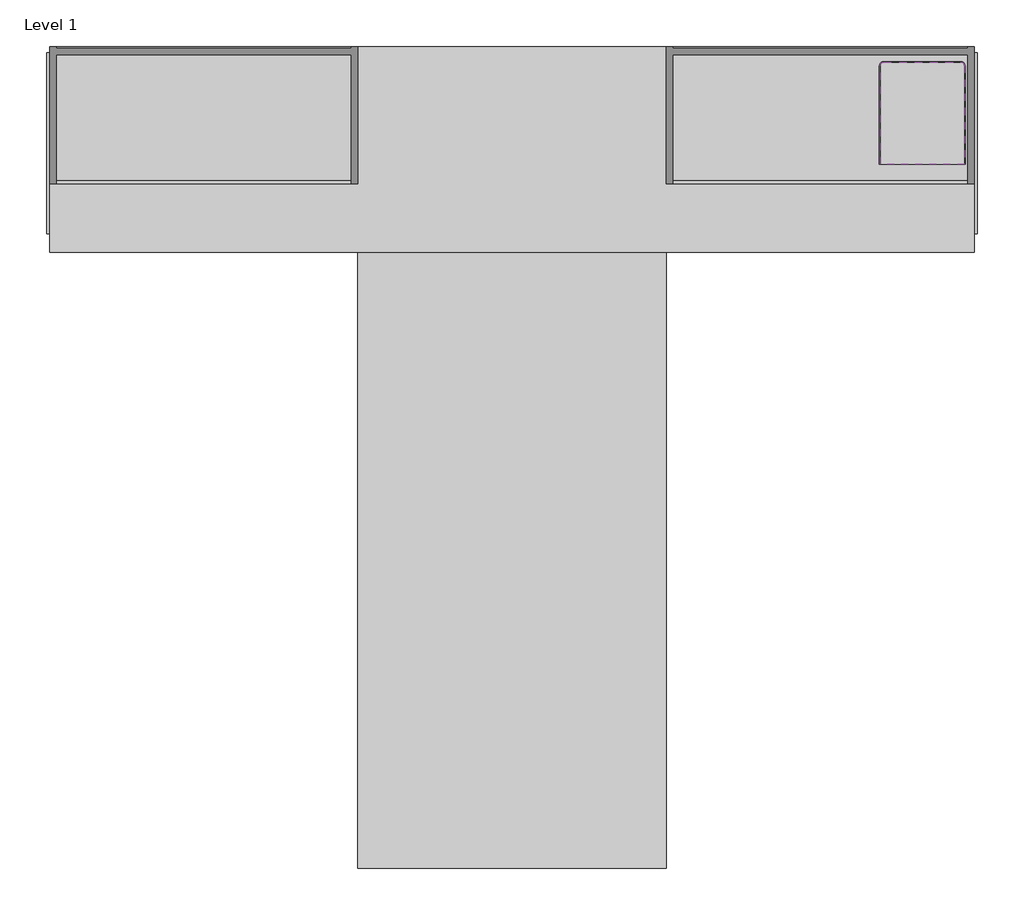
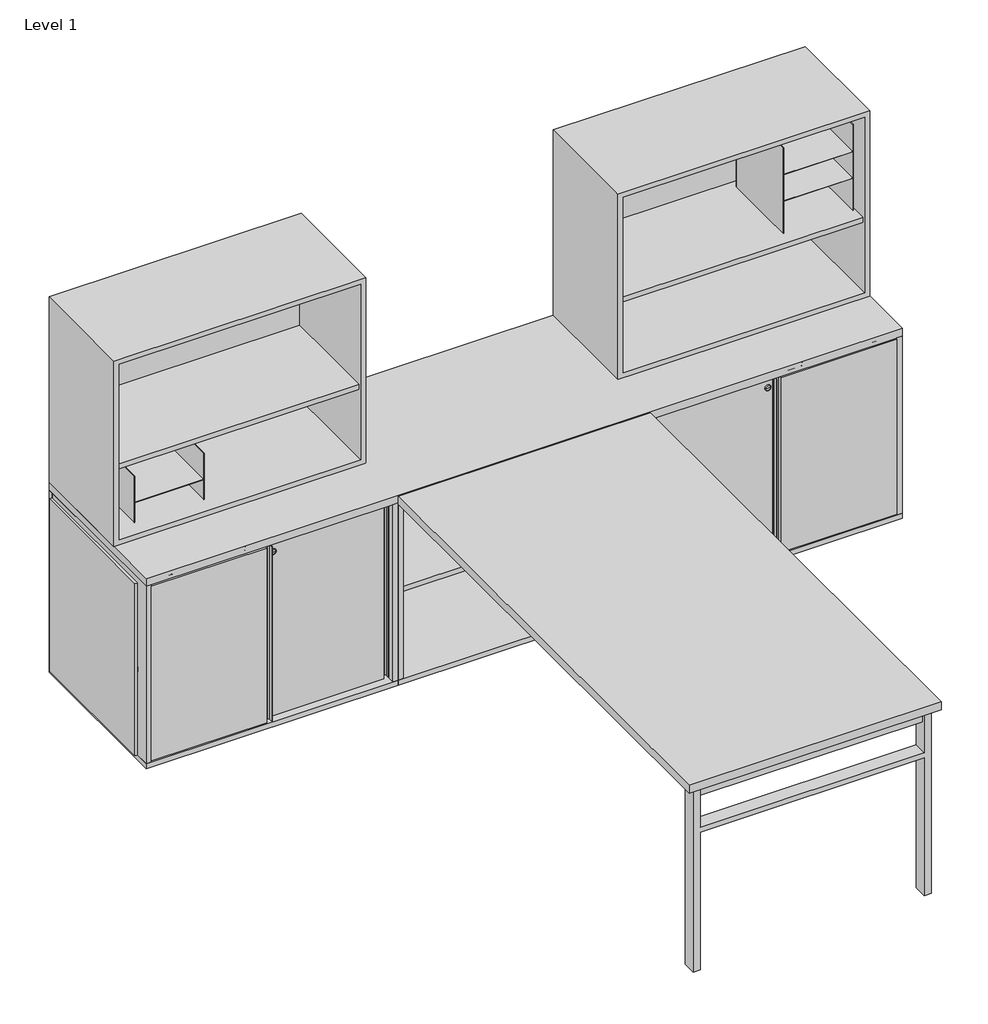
# One storey, incomplete: 12 furniture elements.
"""IFC4 building model written with IfcOpenShell, lengths in millimetres."""

from ifc_helpers import new_model, si_unit, origin, place, context, project, spatial, transform, mapped, element, save
from components import furniture_24d_108w_02e1e0e3, furniture_28h_36w_6ba45165, furniture_28h_36w_e0649eac, furniture_2h_36w_open_proud_back_ebc20219, furniture_2h_36w_sliding_door_proud_back_23e09c04, furniture_2h_36w_sliding_door_proud_back_04c56f9b, furniture_72l_36w_2dfd10e7, haworth_belong_cubby_69a2f568, haworth_belong_cubby_a7607ba5, haworth_belong_cubby_shelf_shelf_f9b6f94a

model = new_model("IFC4")

# Units and contexts
model_context = context("Model", 3, world=origin())
ifc_project = project(units=[si_unit("LENGTHUNIT", "METRE", prefix="MILLI")], contexts=[model_context])

# Site, building, storey
site = spatial("IfcSite", under=ifc_project)
building = spatial("IfcBuilding", under=site)
storey = spatial("IfcBuildingStorey", under=building, Name="Level 1", Elevation=0.0)

# Furniture
placement = place(None, origin())
furniture_24d_108w_shape = furniture_24d_108w_02e1e0e3(model_context)
element("IfcFurniture", 1, ObjectType="Haworth_BeHold_CommonTop : 24d 108w", at=placement, inside=storey, context=model_context, shape_type="MappedRepresentation", body=[
    mapped(furniture_24d_108w_shape, transform((-895.5156362, 3274.0766595, 0.0), x_axis=(1.0, 0.0, 0.0), y_axis=(0.0, 1.0, 0.0), z_axis=(0.0, 0.0, 1.0))),
])
furniture_28h_36w_shape = furniture_28h_36w_6ba45165(model_context)
element("IfcFurniture", 2, ObjectType="Haworth_BeHold_StackOnBookcase : 28h 36w", at=placement, inside=storey, context=model_context, shape_type="MappedRepresentation", body=[
    mapped(furniture_28h_36w_shape, transform((-1809.9156362, 3375.6766595, 182.3640625), x_axis=(1.0, 0.0, 0.0), y_axis=(0.0, 1.0, 0.0), z_axis=(0.0, 0.0, 1.0))),
])
furniture_28h_36w_2_shape = furniture_28h_36w_e0649eac(model_context)
element("IfcFurniture", 3, ObjectType="Haworth_BeHold_StackOnBookcase : 28h 36w", at=placement, inside=storey, context=model_context, shape_type="MappedRepresentation", body=[
    mapped(furniture_28h_36w_2_shape, transform((-294.8339469, 3375.6766595, 182.3640625), x_axis=(-1.0, 0.0, 0.0), y_axis=(0.0, -1.0, 0.0), z_axis=(0.0, 0.0, 1.0))),
])
furniture_2h_36w_open_proud_back_shape = furniture_2h_36w_open_proud_back_ebc20219(model_context)
element("IfcFurniture", 4, ObjectType="Haworth_BeHold_Modular_AttachedCredenza_StorageEnd : 2H - 36w - Open- Proud Back", at=placement, inside=storey, context=model_context, shape_type="MappedRepresentation", body=[
    mapped(furniture_2h_36w_open_proud_back_shape, transform((-895.5156362, 3274.0766595, 0.0), x_axis=(1.0, 0.0, 0.0), y_axis=(0.0, 1.0, 0.0), z_axis=(0.0, 0.0, 1.0))),
])
furniture_2h_36w_sliding_door_proud_back_shape = furniture_2h_36w_sliding_door_proud_back_23e09c04(model_context)
element("IfcFurniture", 5, ObjectType="Haworth_BeHold_Modular_AttachedCredenza_StorageEnd : 2H - 36w - Sliding Door- Proud Back", at=placement, inside=storey, context=model_context, shape_type="MappedRepresentation", body=[
    mapped(furniture_2h_36w_sliding_door_proud_back_shape, transform((-1809.9156362, 3274.0766595, 0.0), x_axis=(1.0, 0.0, 0.0), y_axis=(0.0, 1.0, 0.0), z_axis=(0.0, 0.0, 1.0))),
])
furniture_2h_36w_sliding_door_proud_back_2_shape = furniture_2h_36w_sliding_door_proud_back_04c56f9b(model_context)
element("IfcFurniture", 6, ObjectType="Haworth_BeHold_Modular_AttachedCredenza_StorageEnd : 2H - 36w - Sliding Door- Proud Back", at=placement, inside=storey, context=model_context, shape_type="MappedRepresentation", body=[
    mapped(furniture_2h_36w_sliding_door_proud_back_2_shape, transform((-294.8339469, 3274.0766595, 0.0), x_axis=(-1.0, 0.0, 0.0), y_axis=(0.0, -1.0, 0.0), z_axis=(0.0, 0.0, 1.0))),
])
furniture_72l_36w_shape = furniture_72l_36w_2dfd10e7(model_context)
element("IfcFurniture", 7, ObjectType="Haworth_Compose_Worksurface_RectangularConvergent : 72L 36w", at=placement, inside=storey, context=model_context, shape_type="MappedRepresentation", body=[
    mapped(furniture_72l_36w_shape, transform((-1052.3747916, 1762.7766595, 0.0), x_axis=(1.0, 0.0, 0.0), y_axis=(0.0, 1.0, 0.0), z_axis=(0.0, 0.0, 1.0))),
])
haworth_belong_cubby_shape = haworth_belong_cubby_69a2f568(model_context)
element("IfcFurniture", 8, ObjectType="Haworth_Belong_Cubby : 13h - No Slots", at=placement, inside=storey, context=model_context, shape_type="MappedRepresentation", body=[
    mapped(haworth_belong_cubby_shape, transform((165.0351603, 3241.5342881, 282.4400625), x_axis=(1.0, 0.0, 0.0), y_axis=(0.0, 1.0, 0.0), z_axis=(0.0, 0.0, 1.0))),
])
haworth_belong_cubby_2_shape = haworth_belong_cubby_a7607ba5(model_context)
element("IfcFurniture", 9, ObjectType="Haworth_Belong_Cubby : 7h - No Slots", at=placement, inside=storey, context=model_context, shape_type="MappedRepresentation", body=[
    mapped(haworth_belong_cubby_2_shape, transform((-2189.3825805, 3241.5342881, -1.7859375), x_axis=(1.0, 0.0, 0.0), y_axis=(0.0, 1.0, 0.0), z_axis=(0.0, 0.0, 1.0))),
])
haworth_belong_cubby_shelf_shelf_shape = haworth_belong_cubby_shelf_shelf_f9b6f94a(model_context)
element("IfcFurniture", 10, ObjectType="Haworth_Belong_Cubby Shelf : Shelf", at=placement, inside=storey, context=model_context, shape_type="MappedRepresentation", body=[
    mapped(haworth_belong_cubby_shelf_shelf_shape, transform((165.0351603, 3241.5342881, 1168.4), x_axis=(1.0, 0.0, 0.0), y_axis=(0.0, 1.0, 0.0), z_axis=(0.0, 0.0, 1.0))),
])
element("IfcFurniture", 11, ObjectType="Haworth_Belong_Cubby Shelf : Shelf", at=placement, inside=storey, context=model_context, shape_type="MappedRepresentation", body=[
    mapped(haworth_belong_cubby_shelf_shelf_shape, transform((165.0351603, 3241.5342881, 1270.0), x_axis=(1.0, 0.0, 0.0), y_axis=(0.0, 1.0, 0.0), z_axis=(0.0, 0.0, 1.0))),
])
element("IfcFurniture", 12, ObjectType="Haworth_Belong_Cubby Shelf : Shelf", at=placement, inside=storey, context=model_context, shape_type="MappedRepresentation", body=[
    mapped(haworth_belong_cubby_shelf_shelf_shape, transform((-2189.3825805, 3241.5342881, 836.4140625), x_axis=(1.0, 0.0, 0.0), y_axis=(0.0, 1.0, 0.0), z_axis=(0.0, 0.0, 1.0))),
])

save(model, "model.ifc")
